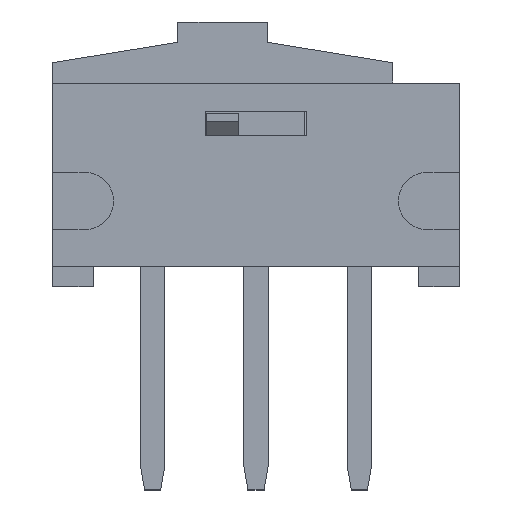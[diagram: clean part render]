
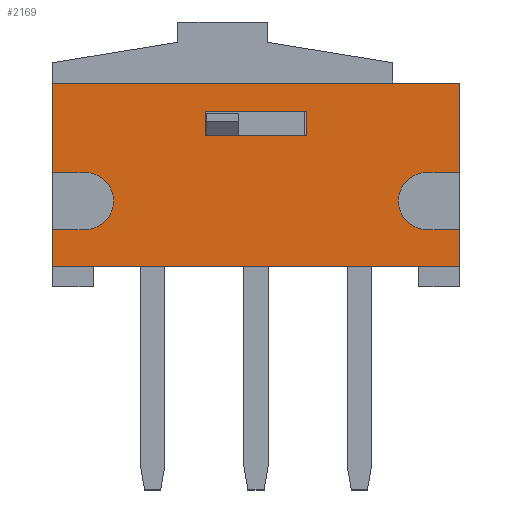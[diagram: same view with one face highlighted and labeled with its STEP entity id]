
A CAD part, top view. The second image highlights one B-rep face of the part: STEP entity #2169.
In plain terms, the highlighted planar face has unit normal (0, 0, 1).
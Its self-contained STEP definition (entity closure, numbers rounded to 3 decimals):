
#2=DIRECTION('',(0.,-1.,0.));
#3=VECTOR('',#2,0.6);
#4=CARTESIAN_POINT('',(-1.25,3.8,0.));
#5=LINE('',#4,#3);
#6=DIRECTION('',(1.,0.,0.));
#7=VECTOR('',#6,2.5);
#8=CARTESIAN_POINT('',(-1.25,3.2,0.));
#9=LINE('',#8,#7);
#10=DIRECTION('',(0.,1.,0.));
#11=VECTOR('',#10,0.6);
#12=CARTESIAN_POINT('',(1.25,3.2,0.));
#13=LINE('',#12,#11);
#14=DIRECTION('',(-1.,0.,0.));
#15=VECTOR('',#14,2.5);
#16=CARTESIAN_POINT('',(1.25,3.8,0.));
#17=LINE('',#16,#15);
#18=DIRECTION('',(-1.,0.,0.));
#19=VECTOR('',#18,0.8);
#20=CARTESIAN_POINT('',(5.,2.3,0.));
#21=LINE('',#20,#19);
#22=CARTESIAN_POINT('',(4.2,1.6,0.));
#23=DIRECTION('',(0.,0.,1.));
#24=DIRECTION('',(0.,1.,0.));
#25=AXIS2_PLACEMENT_3D('',#22,#23,#24);
#27=DIRECTION('',(-1.,0.,0.));
#28=VECTOR('',#27,0.8);
#29=CARTESIAN_POINT('',(5.,0.9,0.));
#30=LINE('',#29,#28);
#31=DIRECTION('',(0.,1.,0.));
#32=VECTOR('',#31,0.9);
#33=CARTESIAN_POINT('',(5.,0.,0.));
#34=LINE('',#33,#32);
#35=DIRECTION('',(1.,0.,0.));
#36=VECTOR('',#35,10.);
#37=CARTESIAN_POINT('',(-5.,0.,0.));
#38=LINE('',#37,#36);
#39=DIRECTION('',(0.,-1.,0.));
#40=VECTOR('',#39,0.9);
#41=CARTESIAN_POINT('',(-5.,0.9,0.));
#42=LINE('',#41,#40);
#43=DIRECTION('',(1.,0.,0.));
#44=VECTOR('',#43,0.8);
#45=CARTESIAN_POINT('',(-5.,0.9,0.));
#46=LINE('',#45,#44);
#47=CARTESIAN_POINT('',(-4.2,1.6,0.));
#48=DIRECTION('',(0.,0.,1.));
#49=DIRECTION('',(0.,-1.,0.));
#50=AXIS2_PLACEMENT_3D('',#47,#48,#49);
#52=DIRECTION('',(1.,0.,0.));
#53=VECTOR('',#52,0.8);
#54=CARTESIAN_POINT('',(-5.,2.3,0.));
#55=LINE('',#54,#53);
#56=DIRECTION('',(0.,-1.,0.));
#57=VECTOR('',#56,2.2);
#58=CARTESIAN_POINT('',(-5.,4.5,0.));
#59=LINE('',#58,#57);
#60=DIRECTION('',(-1.,0.,0.));
#61=VECTOR('',#60,10.);
#62=CARTESIAN_POINT('',(5.,4.5,0.));
#63=LINE('',#62,#61);
#64=DIRECTION('',(0.,1.,0.));
#65=VECTOR('',#64,2.2);
#66=CARTESIAN_POINT('',(5.,2.3,0.));
#67=LINE('',#66,#65);
#1600=CARTESIAN_POINT('',(-5.,0.,0.));
#1601=CARTESIAN_POINT('',(5.,0.,0.));
#1602=VERTEX_POINT('',#1600);
#1603=VERTEX_POINT('',#1601);
#1604=CARTESIAN_POINT('',(5.,4.5,0.));
#1605=CARTESIAN_POINT('',(-5.,4.5,0.));
#1606=VERTEX_POINT('',#1604);
#1607=VERTEX_POINT('',#1605);
#1616=CARTESIAN_POINT('',(-1.25,3.8,0.));
#1617=CARTESIAN_POINT('',(-1.25,3.2,0.));
#1618=VERTEX_POINT('',#1616);
#1619=VERTEX_POINT('',#1617);
#1620=CARTESIAN_POINT('',(1.25,3.2,0.));
#1621=VERTEX_POINT('',#1620);
#1622=CARTESIAN_POINT('',(1.25,3.8,0.));
#1623=VERTEX_POINT('',#1622);
#1704=CARTESIAN_POINT('',(5.,2.3,0.));
#1705=CARTESIAN_POINT('',(4.2,2.3,0.));
#1706=VERTEX_POINT('',#1704);
#1707=VERTEX_POINT('',#1705);
#1708=CARTESIAN_POINT('',(4.2,0.9,0.));
#1709=VERTEX_POINT('',#1708);
#1710=CARTESIAN_POINT('',(5.,0.9,0.));
#1711=VERTEX_POINT('',#1710);
#1712=CARTESIAN_POINT('',(-5.,0.9,0.));
#1713=CARTESIAN_POINT('',(-4.2,0.9,0.));
#1714=VERTEX_POINT('',#1712);
#1715=VERTEX_POINT('',#1713);
#1716=CARTESIAN_POINT('',(-4.2,2.3,0.));
#1717=VERTEX_POINT('',#1716);
#1718=CARTESIAN_POINT('',(-5.,2.3,0.));
#1719=VERTEX_POINT('',#1718);
#2128=CARTESIAN_POINT('',(0.,0.,0.));
#2129=DIRECTION('',(0.,0.,1.));
#2130=DIRECTION('',(1.,0.,0.));
#2131=AXIS2_PLACEMENT_3D('',#2128,#2129,#2130);
#2132=PLANE('',#2131);
#2134=ORIENTED_EDGE('',*,*,#2133,.T.);
#2136=ORIENTED_EDGE('',*,*,#2135,.T.);
#2138=ORIENTED_EDGE('',*,*,#2137,.F.);
#2140=ORIENTED_EDGE('',*,*,#2139,.F.);
#2142=ORIENTED_EDGE('',*,*,#2141,.F.);
#2144=ORIENTED_EDGE('',*,*,#2143,.F.);
#2146=ORIENTED_EDGE('',*,*,#2145,.T.);
#2148=ORIENTED_EDGE('',*,*,#2147,.T.);
#2150=ORIENTED_EDGE('',*,*,#2149,.F.);
#2152=ORIENTED_EDGE('',*,*,#2151,.F.);
#2154=ORIENTED_EDGE('',*,*,#2153,.F.);
#2156=ORIENTED_EDGE('',*,*,#2155,.F.);
#2157=EDGE_LOOP('',(#2134,#2136,#2138,#2140,#2142,#2144,#2146,#2148,#2150,#2152,
#2154,#2156));
#2158=FACE_OUTER_BOUND('',#2157,.F.);
#2160=ORIENTED_EDGE('',*,*,#2159,.T.);
#2162=ORIENTED_EDGE('',*,*,#2161,.T.);
#2164=ORIENTED_EDGE('',*,*,#2163,.T.);
#2166=ORIENTED_EDGE('',*,*,#2165,.T.);
#2167=EDGE_LOOP('',(#2160,#2162,#2164,#2166));
#2168=FACE_BOUND('',#2167,.F.);
#2169=ADVANCED_FACE('',(#2158,#2168),#2132,.T.);
#26=CIRCLE('',#25,0.7);
#51=CIRCLE('',#50,0.7);
#2133=EDGE_CURVE('',#1706,#1707,#21,.T.);
#2135=EDGE_CURVE('',#1707,#1709,#26,.T.);
#2137=EDGE_CURVE('',#1711,#1709,#30,.T.);
#2139=EDGE_CURVE('',#1603,#1711,#34,.T.);
#2141=EDGE_CURVE('',#1602,#1603,#38,.T.);
#2143=EDGE_CURVE('',#1714,#1602,#42,.T.);
#2145=EDGE_CURVE('',#1714,#1715,#46,.T.);
#2147=EDGE_CURVE('',#1715,#1717,#51,.T.);
#2149=EDGE_CURVE('',#1719,#1717,#55,.T.);
#2151=EDGE_CURVE('',#1607,#1719,#59,.T.);
#2153=EDGE_CURVE('',#1606,#1607,#63,.T.);
#2155=EDGE_CURVE('',#1706,#1606,#67,.T.);
#2159=EDGE_CURVE('',#1618,#1619,#5,.T.);
#2161=EDGE_CURVE('',#1619,#1621,#9,.T.);
#2163=EDGE_CURVE('',#1621,#1623,#13,.T.);
#2165=EDGE_CURVE('',#1623,#1618,#17,.T.);
